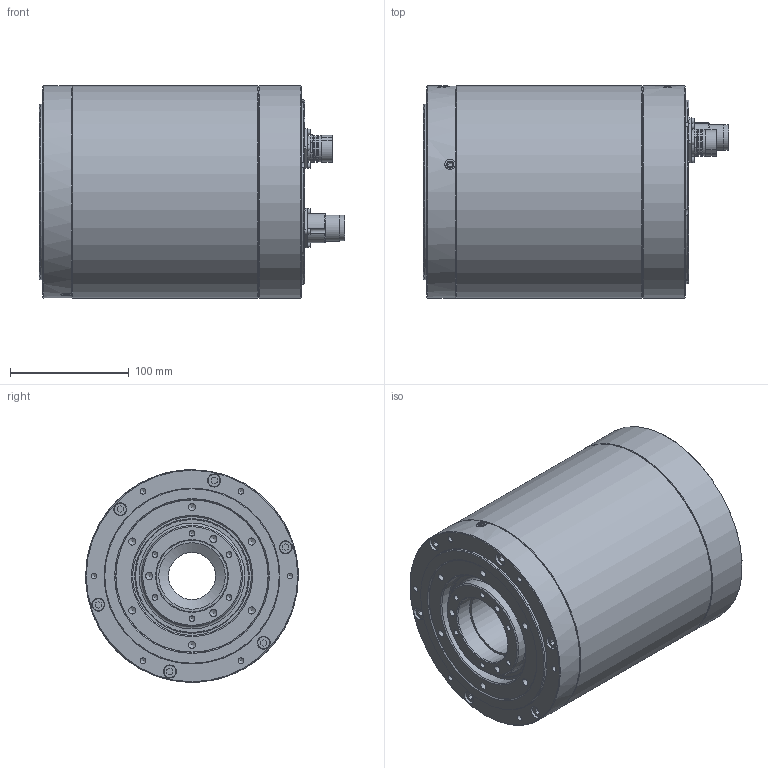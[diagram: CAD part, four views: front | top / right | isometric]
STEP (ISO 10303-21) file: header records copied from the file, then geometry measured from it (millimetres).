
FILE_DESCRIPTION( ( 'Unknown' ), '1' );
FILE_NAME( 'Q:/SKA DDR in acciaio/WEB File/SKA RT 148/3D/148CC120.stp', 'Unknown', ( 'Unknown' ), ( 'Unknown' ), 'PSStep 14.0', 'Unknown', ' ' );
FILE_SCHEMA( ( 'AUTOMOTIVE_DESIGN { 1 0 10303 214 1 1 1 1 }' ) );
Length unit declared in the file: millimetre
Products named in the file (17): Assem1; 148FP024_rev5; CN M23 PAN-POT BEGA 120 4 + 4 pin SpTcR; CN M23 PAN-SEG AEGA 139 17 pin SpTcR; 148FF049_rev5; 148VV024_rev5; 148FF050_rev5; Vite a brugola testa cil 8,8 -  M 2,5 x 8; Vite a brugola testa svasata 10,9 -  M  4 x 14; Vite a brugola testa cil 12,9 -  M  6 x 30; Vite a brugola testa cil 12,9 -  M  6 x 40; Anello OR 2,62 D120,33-3475-oa0; Anello OR 1,78 D142,11-2562-oa1; Anello OR 1,78 D142,11-2562-oa2; Grano senza punta M  6 x 10; 148FS065_120_rev5; 148GG075_120_rev5
Assembly tree (37 placements, depth 2):
  Assem1
    148FP024_rev5
    CN M23 PAN-POT BEGA 120 4 + 4 pin SpTcR
    CN M23 PAN-SEG AEGA 139 17 pin SpTcR
    148FF049_rev5
    148VV024_rev5
    148FF050_rev5
    Vite a brugola testa cil 8,8 -  M 2,5 x 8  x8
    Vite a brugola testa svasata 10,9 -  M  4 x 14  x4
    Vite a brugola testa cil 12,9 -  M  6 x 30  x6
    Vite a brugola testa cil 12,9 -  M  6 x 40  x6
    Anello OR 2,62 D120,33-3475-oa0
    Anello OR 1,78 D142,11-2562-oa1
    Anello OR 1,78 D142,11-2562-oa2
    Grano senza punta M  6 x 10  x2
    148FS065_120_rev5
    148GG075_120_rev5
Bounding box: 257 x 179 x 179 mm (x, y, z)
Volume: 3047965.6 mm3; surface area: 558880.4 mm2
Topology: 37 solids, 37 shells, 905 faces, 2078 edges, 1354 vertices
Faces by surface type: plane 399, cylinder 336, cone 138, torus 24, sphere 8
Full cylindrical faces by diameter (mm): 1.5 x4, 2 x17, 2.013 x8, 2.5 x12, 2.7 x4, 2.8 x4, 3.242 x12, 3.4 x4, 4 x6, 4.134 x12, 4.5 x4, 4.7 x8, 4.917 x50, 6 x26, 6.5 x12, 6.647 x16, 8.5 x6, 9 x2, 10 x12, 11 x12, 16 x1, 17 x2, 19.8 x2, 20 x2, 21 x2, 21.5 x2, 22 x2, 23 x2, 39.5 x1, 40 x1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
Entity records: 19788 total; most frequent: CARTESIAN_POINT 3111, DIRECTION 2838, ORIENTED_EDGE 1874, AXIS2_PLACEMENT_3D 1281, EDGE_LOOP 1181, EDGE_CURVE 937, FACE_OUTER_BOUND 891, VERTEX_POINT 850
